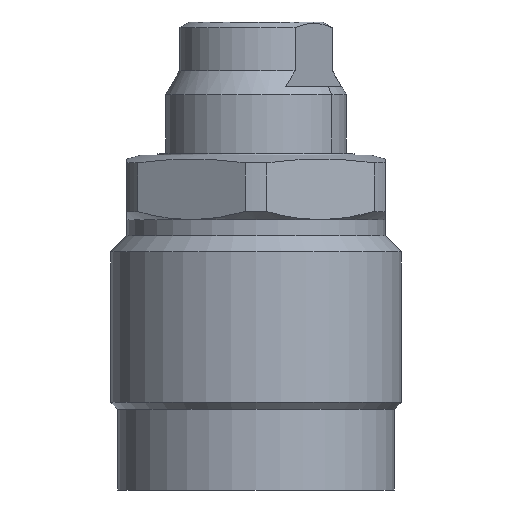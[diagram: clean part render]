
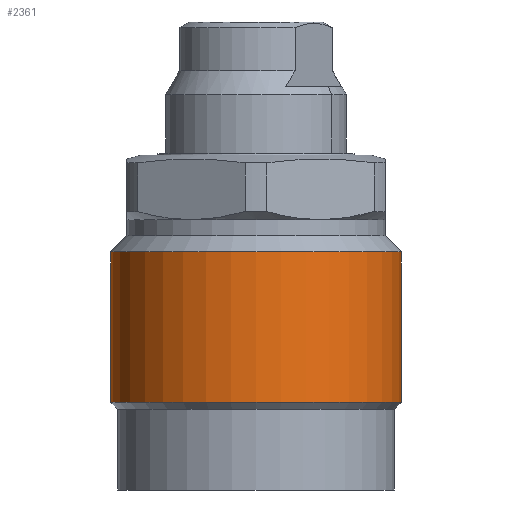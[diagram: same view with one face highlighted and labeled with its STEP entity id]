
A CAD part, front view. The second image highlights one B-rep face of the part: STEP entity #2361.
In plain terms, the highlighted cylindrical face has radius 18 mm (diameter 36 mm), a partial arc.
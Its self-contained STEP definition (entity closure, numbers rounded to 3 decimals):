
#319 = DIRECTION ( 'NONE',  ( 0., 0., 1. ) ) ;
#321 = FACE_OUTER_BOUND ( 'NONE', #2206, .T. ) ;
#322 = CARTESIAN_POINT ( 'NONE',  ( 0., 0., 4.451 ) ) ;
#324 = CYLINDRICAL_SURFACE ( 'NONE', #1774, 18. ) ;
#325 = DIRECTION ( 'NONE',  ( 1., 0., 0. ) ) ;
#1063 = CARTESIAN_POINT ( 'NONE',  ( 0., 0., -30.65 ) ) ;
#1064 = DIRECTION ( 'NONE',  ( 0., 0., 1. ) ) ;
#1065 = DIRECTION ( 'NONE',  ( 1., 0., 0. ) ) ;
#1066 = CARTESIAN_POINT ( 'NONE',  ( 0., 0., -12. ) ) ;
#1067 = DIRECTION ( 'NONE',  ( 0., 0., 1. ) ) ;
#1068 = DIRECTION ( 'NONE',  ( 1., 0., 0. ) ) ;
#1293 = CARTESIAN_POINT ( 'NONE',  ( 18., 0., -30.65 ) ) ;
#1295 = CARTESIAN_POINT ( 'NONE',  ( -18., 0., -30.65 ) ) ;
#1296 = CARTESIAN_POINT ( 'NONE',  ( 18., 0., -12. ) ) ;
#1297 = CARTESIAN_POINT ( 'NONE',  ( -18., 0., -12. ) ) ;
#1579 = CARTESIAN_POINT ( 'NONE',  ( -18., 0., 4.451 ) ) ;
#1585 = LINE ( 'NONE', #1579, #1837 ) ;
#1589 = DIRECTION ( 'NONE',  ( 0., 0., 1. ) ) ;
#1590 = LINE ( 'NONE', #1591, #1843 ) ;
#1591 = CARTESIAN_POINT ( 'NONE',  ( 18., 0., 4.451 ) ) ;
#1592 = DIRECTION ( 'NONE',  ( 0., 0., 1. ) ) ;
#1613 = EDGE_CURVE ( 'NONE', #2279, #2277, #2645, .T. ) ;
#1614 = EDGE_CURVE ( 'NONE', #2281, #2280, #2652, .T. ) ;
#1774 = AXIS2_PLACEMENT_3D ( 'NONE', #322, #319, #325 ) ;
#1837 = VECTOR ( 'NONE', #1589, 1000. ) ;
#1843 = VECTOR ( 'NONE', #1592, 1000. ) ;
#2206 = EDGE_LOOP ( 'NONE', ( #2502, #2501, #2500, #2499 ) ) ;
#2277 = VERTEX_POINT ( 'NONE', #1293 ) ;
#2279 = VERTEX_POINT ( 'NONE', #1295 ) ;
#2280 = VERTEX_POINT ( 'NONE', #1296 ) ;
#2281 = VERTEX_POINT ( 'NONE', #1297 ) ;
#2361 = ADVANCED_FACE ( 'NONE', ( #321 ), #324, .T. ) ;
#2427 = EDGE_CURVE ( 'NONE', #2279, #2281, #1585, .T. ) ;
#2428 = EDGE_CURVE ( 'NONE', #2277, #2280, #1590, .T. ) ;
#2499 = ORIENTED_EDGE ( 'NONE', *, *, #1614, .F. ) ;
#2500 = ORIENTED_EDGE ( 'NONE', *, *, #2428, .T. ) ;
#2501 = ORIENTED_EDGE ( 'NONE', *, *, #1613, .T. ) ;
#2502 = ORIENTED_EDGE ( 'NONE', *, *, #2427, .F. ) ;
#2645 = CIRCLE ( 'NONE', #2655, 18. ) ;
#2652 = CIRCLE ( 'NONE', #2657, 18. ) ;
#2655 = AXIS2_PLACEMENT_3D ( 'NONE', #1063, #1064, #1065 ) ;
#2657 = AXIS2_PLACEMENT_3D ( 'NONE', #1066, #1067, #1068 ) ;
